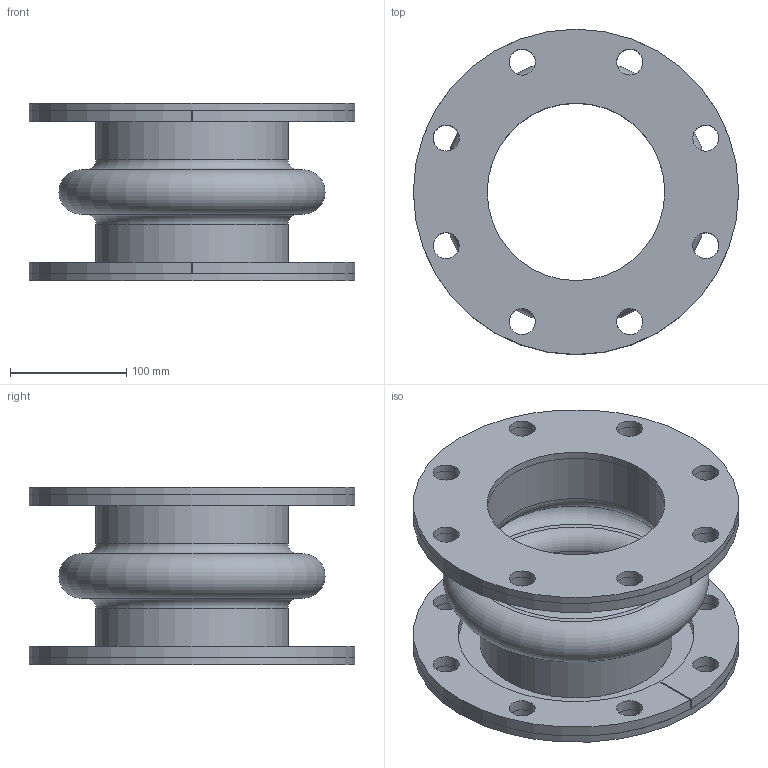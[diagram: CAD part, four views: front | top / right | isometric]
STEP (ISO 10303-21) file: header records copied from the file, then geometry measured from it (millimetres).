
FILE_DESCRIPTION(/* description */ (''),/* implementation_level */ '2;1');
FILE_NAME(/* name */ '6x6.stp',/* time_stamp */ '2026-07-21T16:03:10-05:00',/* author */ ('linda'),/* organization */ (''),/* preprocessor_version */ 'ST-DEVELOPER v20.1',/* originating_system */ 'Autodesk Inventor 2026',/* authorisation */ '');
FILE_SCHEMA (('AUTOMOTIVE_DESIGN { 1 0 10303 214 3 1 1 }'));
Length unit declared in the file: inch
Products named in the file (1): Part16
Bounding box: 279.4 x 279.4 x 152.4 mm (x, y, z)
Volume: 1627612.1 mm3; surface area: 521723.7 mm2
Topology: 5 solids, 5 shells, 78 faces, 186 edges, 124 vertices
Faces by surface type: cylinder 48, plane 24, torus 6
Full cylindrical faces by diameter (mm): 22.352 x32, 152.4 x4, 165.1 x2, 279.4 x2
Entity records: 2593 total; most frequent: DIRECTION 458, CARTESIAN_POINT 389, ORIENTED_EDGE 372, AXIS2_PLACEMENT_3D 193, EDGE_CURVE 186, EDGE_LOOP 150, VERTEX_POINT 124, CIRCLE 114
